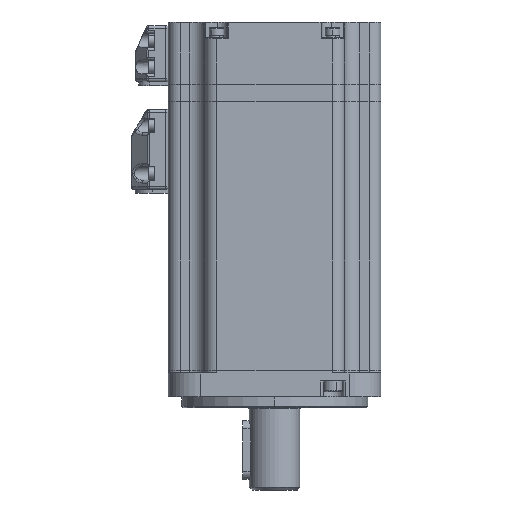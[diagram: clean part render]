
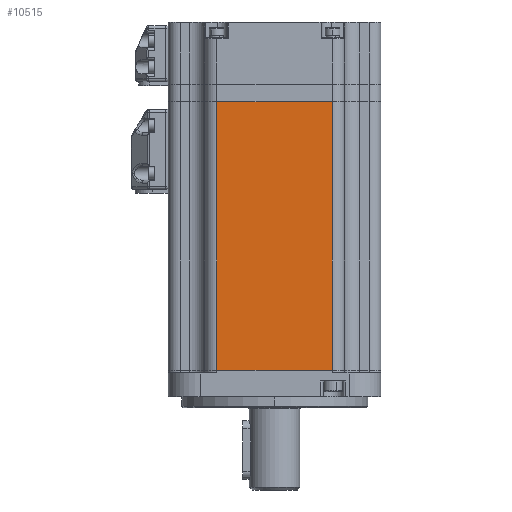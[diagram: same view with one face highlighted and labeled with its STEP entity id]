
A CAD part, left-side view. The second image highlights one B-rep face of the part: STEP entity #10515.
In plain terms, the highlighted planar face has unit normal (-1, 0, 0).
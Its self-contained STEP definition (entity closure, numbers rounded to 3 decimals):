
#3950 = VECTOR ( 'NONE', #82229, 1000. ) ;
#4323 = LINE ( 'NONE', #35013, #29511 ) ;
#6418 = EDGE_LOOP ( 'NONE', ( #83953, #60770, #26575, #65777 ) ) ;
#10515 = ADVANCED_FACE ( 'NONE', ( #27702 ), #62190, .F. ) ;
#12720 = VECTOR ( 'NONE', #21568, 1000. ) ;
#14247 = EDGE_CURVE ( 'NONE', #60175, #53996, #83528, .T. ) ;
#16266 = CARTESIAN_POINT ( 'NONE',  ( -40., -21.75, 101.1 ) ) ;
#17860 = CARTESIAN_POINT ( 'NONE',  ( -40., 21.75, 101.1 ) ) ;
#19838 = VECTOR ( 'NONE', #25357, 1000. ) ;
#21568 = DIRECTION ( 'NONE',  ( 0., -1., 0. ) ) ;
#25357 = DIRECTION ( 'NONE',  ( 0., -1., 0. ) ) ;
#26575 = ORIENTED_EDGE ( 'NONE', *, *, #55789, .T. ) ;
#27284 = DIRECTION ( 'NONE',  ( 0., 0., -1. ) ) ;
#27702 = FACE_OUTER_BOUND ( 'NONE', #6418, .T. ) ;
#29511 = VECTOR ( 'NONE', #27284, 1000. ) ;
#31387 = CARTESIAN_POINT ( 'NONE',  ( -40., 26.25, 101.1 ) ) ;
#35013 = CARTESIAN_POINT ( 'NONE',  ( -40., 21.75, 101.1 ) ) ;
#37512 = LINE ( 'NONE', #60295, #3950 ) ;
#48075 = AXIS2_PLACEMENT_3D ( 'NONE', #31387, #93095, #92101 ) ;
#53996 = VERTEX_POINT ( 'NONE', #16266 ) ;
#55789 = EDGE_CURVE ( 'NONE', #86184, #91612, #89569, .T. ) ;
#58760 = CARTESIAN_POINT ( 'NONE',  ( -40., 21.75, 0. ) ) ;
#60175 = VERTEX_POINT ( 'NONE', #17860 ) ;
#60295 = CARTESIAN_POINT ( 'NONE',  ( -40., -21.75, 101.1 ) ) ;
#60770 = ORIENTED_EDGE ( 'NONE', *, *, #70011, .T. ) ;
#62190 = PLANE ( 'NONE',  #48075 ) ;
#65777 = ORIENTED_EDGE ( 'NONE', *, *, #66696, .T. ) ;
#66696 = EDGE_CURVE ( 'NONE', #91612, #53996, #37512, .T. ) ;
#70011 = EDGE_CURVE ( 'NONE', #60175, #86184, #4323, .T. ) ;
#70347 = CARTESIAN_POINT ( 'NONE',  ( -40., 26.25, 101.1 ) ) ;
#79171 = CARTESIAN_POINT ( 'NONE',  ( -40., -21.75, 0. ) ) ;
#82229 = DIRECTION ( 'NONE',  ( 0., 0., 1. ) ) ;
#83528 = LINE ( 'NONE', #70347, #19838 ) ;
#83953 = ORIENTED_EDGE ( 'NONE', *, *, #14247, .F. ) ;
#86184 = VERTEX_POINT ( 'NONE', #58760 ) ;
#89569 = LINE ( 'NONE', #96431, #12720 ) ;
#91612 = VERTEX_POINT ( 'NONE', #79171 ) ;
#92101 = DIRECTION ( 'NONE',  ( 0., 1., 0. ) ) ;
#93095 = DIRECTION ( 'NONE',  ( 1., 0., 0. ) ) ;
#96431 = CARTESIAN_POINT ( 'NONE',  ( -40., 26.25, 0. ) ) ;
